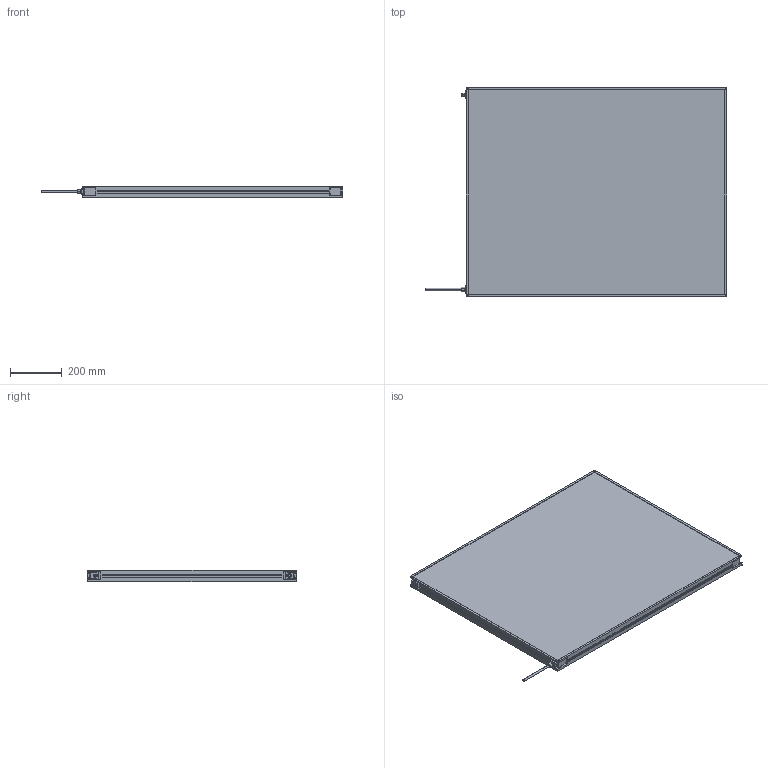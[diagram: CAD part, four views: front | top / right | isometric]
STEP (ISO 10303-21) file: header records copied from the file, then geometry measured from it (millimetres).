
FILE_DESCRIPTION (( 'STEP AP214' ), '1' );
FILE_NAME ('MBACK-xxxx-xxx-M1A2_CLIENT800x1000.STEP', '2022-04-01T11:51:10', ( '' ), ( '' ), 'SwSTEP 2.0', 'SolidWorks 2020', '' );
FILE_SCHEMA (( 'AUTOMOTIVE_DESIGN' ));
Length unit declared in the file: millimetre
Products named in the file (1): MBACK-xxxx-xxx-M1A2_CLIENT800x1000
Bounding box: 1167.4 x 808 x 45.5 mm (x, y, z)
Volume: 33953921 mm3; surface area: 1876125.3 mm2
Topology: 1 solids, 1 shells, 470 faces, 1210 edges, 804 vertices
Faces by surface type: plane 265, cylinder 117, bspline 80, cone 8
Entity records: 18046 total; most frequent: CARTESIAN_POINT 6837, ORIENTED_EDGE 2420, DIRECTION 2082, EDGE_CURVE 1210, VERTEX_POINT 804, VECTOR 800, LINE 800, AXIS2_PLACEMENT_3D 641
